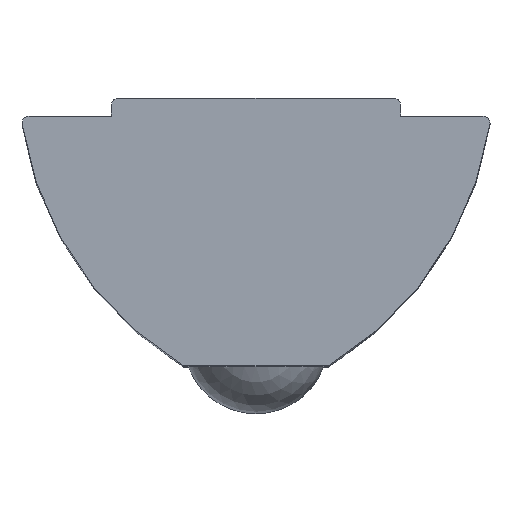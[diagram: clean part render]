
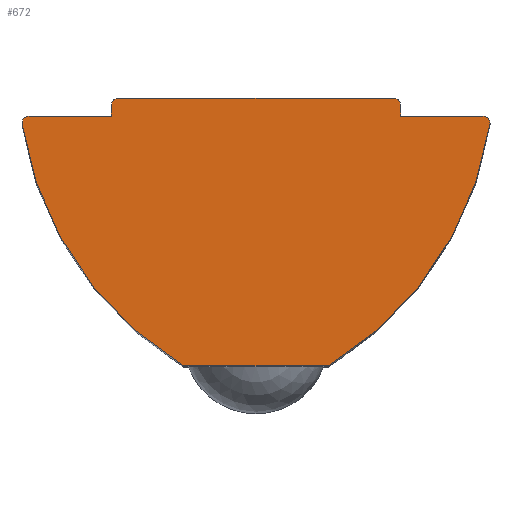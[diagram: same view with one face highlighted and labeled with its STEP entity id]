
A CAD part, top view. The second image highlights one B-rep face of the part: STEP entity #672.
In plain terms, the highlighted planar face has unit normal (0, 0, 1).
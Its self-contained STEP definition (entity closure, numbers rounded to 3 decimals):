
#1 = EDGE_CURVE ( 'NONE', #304, #439, #306, .T. ) ;
#5 = CARTESIAN_POINT ( 'NONE',  ( 3.8, 7.4, 11. ) ) ;
#16 = CIRCLE ( 'NONE', #634, 0.2 ) ;
#27 = CIRCLE ( 'NONE', #684, 0.2 ) ;
#28 = VECTOR ( 'NONE', #548, 1000. ) ;
#32 = CIRCLE ( 'NONE', #690, 0.2 ) ;
#36 = LINE ( 'NONE', #565, #28 ) ;
#76 = FACE_OUTER_BOUND ( 'NONE', #459, .T. ) ;
#77 = VECTOR ( 'NONE', #631, 1000. ) ;
#79 = ORIENTED_EDGE ( 'NONE', *, *, #632, .F. ) ;
#89 = DIRECTION ( 'NONE',  ( 1., 0., 0. ) ) ;
#90 = DIRECTION ( 'NONE',  ( 0., 1., 0. ) ) ;
#93 = CIRCLE ( 'NONE', #767, 9.5 ) ;
#109 = DIRECTION ( 'NONE',  ( 0., 0., 1. ) ) ;
#111 = ORIENTED_EDGE ( 'NONE', *, *, #700, .T. ) ;
#113 = CIRCLE ( 'NONE', #594, 0.2 ) ;
#114 = LINE ( 'NONE', #623, #77 ) ;
#115 = CARTESIAN_POINT ( 'NONE',  ( 2.921, 8.126, 11. ) ) ;
#126 = CARTESIAN_POINT ( 'NONE',  ( -3.8, 7.4, 11. ) ) ;
#138 = VECTOR ( 'NONE', #746, 1000. ) ;
#144 = AXIS2_PLACEMENT_3D ( 'NONE', #764, #809, #800 ) ;
#171 = LINE ( 'NONE', #752, #138 ) ;
#178 = DIRECTION ( 'NONE',  ( 1., 0., 0. ) ) ;
#182 = VECTOR ( 'NONE', #90, 1000. ) ;
#184 = LINE ( 'NONE', #852, #182 ) ;
#200 = EDGE_CURVE ( 'NONE', #761, #351, #307, .T. ) ;
#212 = DIRECTION ( 'NONE',  ( -1., 0., 0. ) ) ;
#234 = ORIENTED_EDGE ( 'NONE', *, *, #694, .T. ) ;
#238 = CARTESIAN_POINT ( 'NONE',  ( 0., 0., 11. ) ) ;
#254 = CARTESIAN_POINT ( 'NONE',  ( -4., 7.2, 11. ) ) ;
#265 = AXIS2_PLACEMENT_3D ( 'NONE', #115, #109, #89 ) ;
#268 = CIRCLE ( 'NONE', #144, 0.2 ) ;
#290 = CARTESIAN_POINT ( 'NONE',  ( -6.467, 6.669, 11. ) ) ;
#303 = VECTOR ( 'NONE', #212, 1000. ) ;
#304 = VERTEX_POINT ( 'NONE', #5 ) ;
#306 = LINE ( 'NONE', #664, #303 ) ;
#307 = CIRCLE ( 'NONE', #265, 9.5 ) ;
#322 = EDGE_CURVE ( 'NONE', #390, #761, #268, .T. ) ;
#324 = DIRECTION ( 'NONE',  ( 1., 0., 0. ) ) ;
#328 = DIRECTION ( 'NONE',  ( 0., 0., 1. ) ) ;
#334 = CARTESIAN_POINT ( 'NONE',  ( 3.8, 7.2, 11. ) ) ;
#351 = VERTEX_POINT ( 'NONE', #719 ) ;
#357 = VERTEX_POINT ( 'NONE', #709 ) ;
#367 = DIRECTION ( 'NONE',  ( 1., 0., 0. ) ) ;
#368 = DIRECTION ( 'NONE',  ( 0., 0., 1. ) ) ;
#372 = CARTESIAN_POINT ( 'NONE',  ( -3.8, 7.2, 11. ) ) ;
#379 = ORIENTED_EDGE ( 'NONE', *, *, #200, .T. ) ;
#380 = ORIENTED_EDGE ( 'NONE', *, *, #322, .T. ) ;
#390 = VERTEX_POINT ( 'NONE', #546 ) ;
#413 = ORIENTED_EDGE ( 'NONE', *, *, #702, .T. ) ;
#421 = DIRECTION ( 'NONE',  ( 1., 0., 0. ) ) ;
#423 = DIRECTION ( 'NONE',  ( 0., 0., 1. ) ) ;
#428 = CARTESIAN_POINT ( 'NONE',  ( 6.269, 6.7, 11. ) ) ;
#438 = DIRECTION ( 'NONE',  ( 1., 0., 0. ) ) ;
#439 = VERTEX_POINT ( 'NONE', #126 ) ;
#445 = ORIENTED_EDGE ( 'NONE', *, *, #452, .F. ) ;
#446 = DIRECTION ( 'NONE',  ( 0., 0., 1. ) ) ;
#449 = CARTESIAN_POINT ( 'NONE',  ( -6.269, 6.7, 11. ) ) ;
#452 = EDGE_CURVE ( 'NONE', #600, #783, #184, .T. ) ;
#455 = ORIENTED_EDGE ( 'NONE', *, *, #741, .T. ) ;
#459 = EDGE_LOOP ( 'NONE', ( #507, #111, #380, #379, #475, #79, #413, #502, #234, #455, #593, #559, #445 ) ) ;
#475 = ORIENTED_EDGE ( 'NONE', *, *, #811, .T. ) ;
#478 = VERTEX_POINT ( 'NONE', #841 ) ;
#486 = VERTEX_POINT ( 'NONE', #832 ) ;
#502 = ORIENTED_EDGE ( 'NONE', *, *, #635, .T. ) ;
#507 = ORIENTED_EDGE ( 'NONE', *, *, #549, .F. ) ;
#546 = CARTESIAN_POINT ( 'NONE',  ( -6.469, 6.7, 11. ) ) ;
#548 = DIRECTION ( 'NONE',  ( 0., 1., 0. ) ) ;
#549 = EDGE_CURVE ( 'NONE', #478, #600, #171, .T. ) ;
#559 = ORIENTED_EDGE ( 'NONE', *, *, #733, .T. ) ;
#560 = DIRECTION ( 'NONE',  ( 1., 0., 0. ) ) ;
#562 = DIRECTION ( 'NONE',  ( 0., 0., 1. ) ) ;
#565 = CARTESIAN_POINT ( 'NONE',  ( 4., 0., 11. ) ) ;
#573 = PLANE ( 'NONE',  #703 ) ;
#580 = VERTEX_POINT ( 'NONE', #717 ) ;
#591 = CARTESIAN_POINT ( 'NONE',  ( 0., 0., 11. ) ) ;
#593 = ORIENTED_EDGE ( 'NONE', *, *, #1, .T. ) ;
#594 = AXIS2_PLACEMENT_3D ( 'NONE', #334, #328, #324 ) ;
#597 = VERTEX_POINT ( 'NONE', #711 ) ;
#600 = VERTEX_POINT ( 'NONE', #720 ) ;
#606 = VERTEX_POINT ( 'NONE', #701 ) ;
#619 = DIRECTION ( 'NONE',  ( 1., 0., 0. ) ) ;
#620 = DIRECTION ( 'NONE',  ( 0., 0., -1. ) ) ;
#622 = CARTESIAN_POINT ( 'NONE',  ( -2.921, 8.126, 11. ) ) ;
#623 = CARTESIAN_POINT ( 'NONE',  ( 0., 6.9, 11. ) ) ;
#631 = DIRECTION ( 'NONE',  ( -1., 0., 0. ) ) ;
#632 = EDGE_CURVE ( 'NONE', #486, #357, #93, .T. ) ;
#634 = AXIS2_PLACEMENT_3D ( 'NONE', #372, #368, #367 ) ;
#635 = EDGE_CURVE ( 'NONE', #580, #597, #114, .T. ) ;
#638 = VECTOR ( 'NONE', #178, 1000. ) ;
#664 = CARTESIAN_POINT ( 'NONE',  ( 0., 7.4, 11. ) ) ;
#672 = ADVANCED_FACE ( 'NONE', ( #76 ), #573, .T. ) ;
#684 = AXIS2_PLACEMENT_3D ( 'NONE', #428, #423, #421 ) ;
#690 = AXIS2_PLACEMENT_3D ( 'NONE', #449, #446, #438 ) ;
#694 = EDGE_CURVE ( 'NONE', #597, #606, #36, .T. ) ;
#700 = EDGE_CURVE ( 'NONE', #478, #390, #32, .T. ) ;
#701 = CARTESIAN_POINT ( 'NONE',  ( 4., 7.2, 11. ) ) ;
#702 = EDGE_CURVE ( 'NONE', #486, #580, #27, .T. ) ;
#703 = AXIS2_PLACEMENT_3D ( 'NONE', #591, #562, #560 ) ;
#709 = CARTESIAN_POINT ( 'NONE',  ( 2., 0., 11. ) ) ;
#711 = CARTESIAN_POINT ( 'NONE',  ( 4., 6.9, 11. ) ) ;
#717 = CARTESIAN_POINT ( 'NONE',  ( 6.269, 6.9, 11. ) ) ;
#719 = CARTESIAN_POINT ( 'NONE',  ( -2., 0., 11. ) ) ;
#720 = CARTESIAN_POINT ( 'NONE',  ( -4., 6.9, 11. ) ) ;
#733 = EDGE_CURVE ( 'NONE', #439, #783, #16, .T. ) ;
#741 = EDGE_CURVE ( 'NONE', #606, #304, #113, .T. ) ;
#746 = DIRECTION ( 'NONE',  ( 1., 0., 0. ) ) ;
#752 = CARTESIAN_POINT ( 'NONE',  ( 0., 6.9, 11. ) ) ;
#761 = VERTEX_POINT ( 'NONE', #290 ) ;
#764 = CARTESIAN_POINT ( 'NONE',  ( -6.269, 6.7, 11. ) ) ;
#767 = AXIS2_PLACEMENT_3D ( 'NONE', #622, #620, #619 ) ;
#783 = VERTEX_POINT ( 'NONE', #254 ) ;
#800 = DIRECTION ( 'NONE',  ( 1., 0., 0. ) ) ;
#809 = DIRECTION ( 'NONE',  ( 0., 0., 1. ) ) ;
#811 = EDGE_CURVE ( 'NONE', #351, #357, #823, .T. ) ;
#823 = LINE ( 'NONE', #238, #638 ) ;
#832 = CARTESIAN_POINT ( 'NONE',  ( 6.467, 6.669, 11. ) ) ;
#841 = CARTESIAN_POINT ( 'NONE',  ( -6.269, 6.9, 11. ) ) ;
#852 = CARTESIAN_POINT ( 'NONE',  ( -4., 0., 11. ) ) ;
